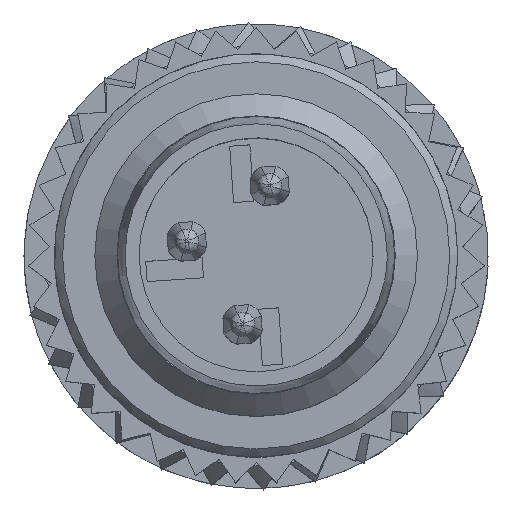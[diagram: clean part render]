
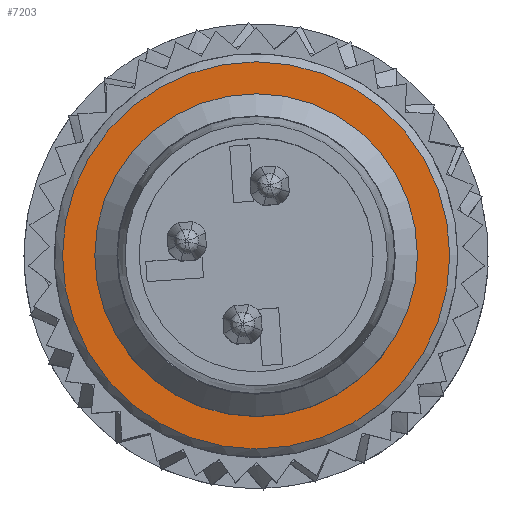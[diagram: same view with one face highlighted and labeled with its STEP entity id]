
A CAD part, top view. The second image highlights one B-rep face of the part: STEP entity #7203.
In plain terms, the highlighted planar face has unit normal (0, 0, 1).
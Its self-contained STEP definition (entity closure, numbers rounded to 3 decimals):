
#3472=PLANE('',#17264);
#7203=ADVANCED_FACE('',(#7901,#7902),#3472,.F.);
#7901=FACE_BOUND('',#8241,.T.);
#7902=FACE_BOUND('',#8242,.T.);
#8241=EDGE_LOOP('',(#9888));
#8242=EDGE_LOOP('',(#9889));
#9888=ORIENTED_EDGE('',*,*,#14682,.F.);
#9889=ORIENTED_EDGE('',*,*,#14631,.T.);
#13153=VERTEX_POINT('',#22912);
#13198=VERTEX_POINT('',#23025);
#14631=EDGE_CURVE('',#13153,#13153,#16124,.T.);
#14682=EDGE_CURVE('',#13198,#13198,#16143,.T.);
#16124=CIRCLE('',#17226,4.8);
#16143=CIRCLE('',#17262,3.425);
#17226=AXIS2_PLACEMENT_3D('',#22911,#19073,#19074);
#17262=AXIS2_PLACEMENT_3D('',#23024,#19177,#19178);
#17264=AXIS2_PLACEMENT_3D('',#23027,#19181,#19182);
#19073=DIRECTION('',(0.,0.,1.));
#19074=DIRECTION('',(1.,0.,0.));
#19177=DIRECTION('',(0.,0.,1.));
#19178=DIRECTION('',(-1.,0.,0.));
#19181=DIRECTION('',(0.,0.,-1.));
#19182=DIRECTION('',(1.,0.,0.));
#22911=CARTESIAN_POINT('',(0.,0.,18.6));
#22912=CARTESIAN_POINT('',(4.8,0.,18.6));
#23024=CARTESIAN_POINT('',(0.,0.,18.6));
#23025=CARTESIAN_POINT('',(-3.425,0.,18.6));
#23027=CARTESIAN_POINT('',(0.,5.,18.6));
